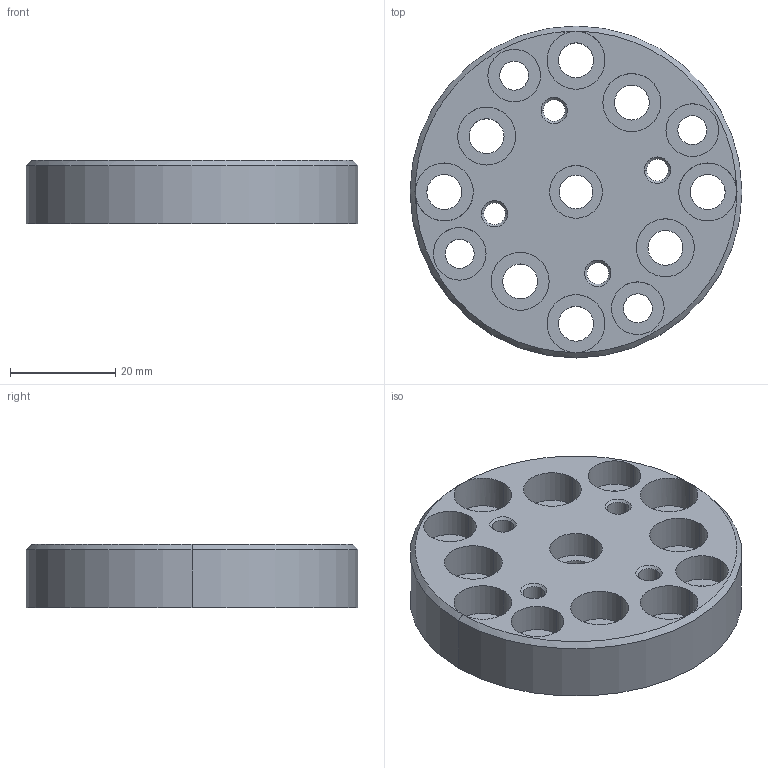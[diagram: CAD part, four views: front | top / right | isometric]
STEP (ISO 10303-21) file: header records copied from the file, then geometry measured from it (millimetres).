
FILE_DESCRIPTION (( 'STEP AP214' ), '1' );
FILE_NAME ('GRF-02.STEP', '2019-12-04T09:23:13', ( '微软用户' ), ( '微软中国' ), 'SwSTEP 2.0', 'SolidWorks 2016', '' );
FILE_SCHEMA (( 'AUTOMOTIVE_DESIGN' ));
Length unit declared in the file: millimetre
Products named in the file (1): GRF-02
Bounding box: 63 x 63 x 12 mm (x, y, z)
Volume: 27031.5 mm3; surface area: 12378 mm2
Topology: 1 solids, 1 shells, 98 faces, 232 edges, 146 vertices
Faces by surface type: cylinder 64, cone 18, plane 16
Entity records: 4058 total; most frequent: DIRECTION 580, CARTESIAN_POINT 477, ORIENTED_EDGE 464, AXIS2_PLACEMENT_3D 249, EDGE_CURVE 232, CIRCLE 150, VERTEX_POINT 146, EDGE_LOOP 142
